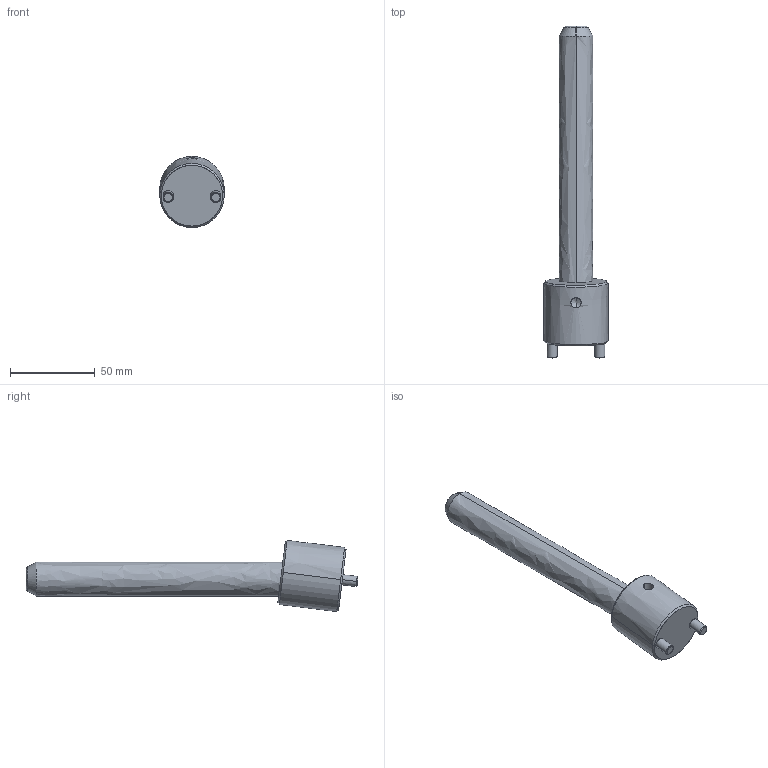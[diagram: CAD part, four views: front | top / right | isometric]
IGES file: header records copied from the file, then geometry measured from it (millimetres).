
Start section: START RECORD GO HERE.
Global section: file name: CI0720150.igs; native system: DASSAULT SYSTEMES CATIA V5 R20 - www.3ds.com; preprocessor: CATIA Version 5 Release 20 ; author: r.borello; organization: CFTORINO; date: 20190624.090911; units: millimetre
Bounding box: 38 x 195.46 x 41.86 mm (x, y, z)
Surface area: 20608.2 mm2 (no closed solid volume)
Topology: 0 solids, 0 shells, 39 faces, 162 edges, 160 vertices
Faces by surface type: revolution 32, plane 7
